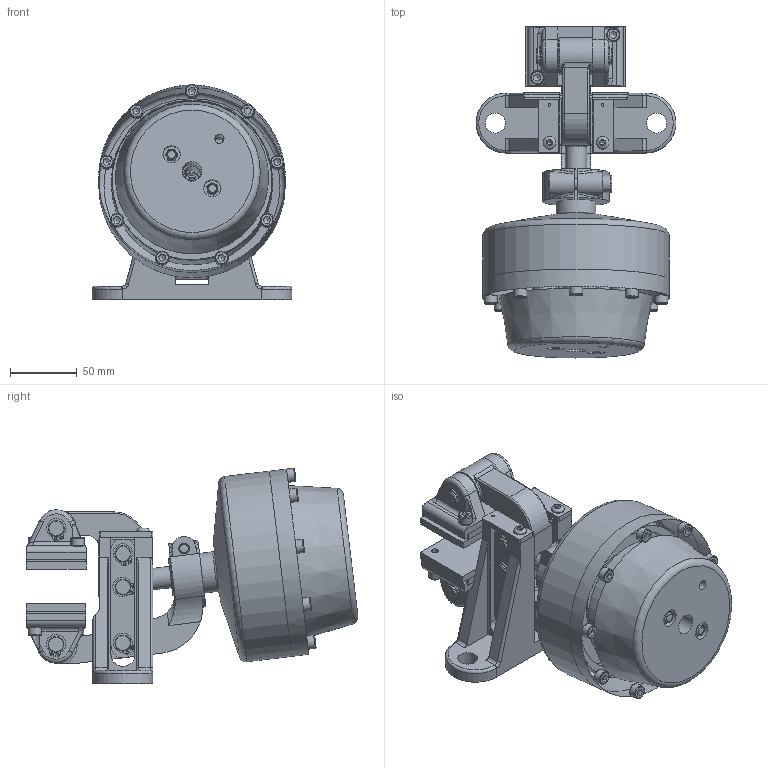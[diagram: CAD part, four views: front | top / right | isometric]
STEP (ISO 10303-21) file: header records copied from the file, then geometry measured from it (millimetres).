
FILE_DESCRIPTION(/* description */ ('','CAx-IF Rec.Pracs.---Representation and Presentation of Product Manufacturing Information (PMI)---4.0---2014-10-13'),/* implementation_level */ '2;1');
FILE_NAME(/* name */ 'X:\INVENTOR\DISEGNI\19_Pinze\STEP x Sito\PNEUM-NEGATIVE\19_36_013_04 PPD-N013_25,4.stp',/* time_stamp */ '2018-02-20T13:48:21+01:00',/* author */ ('stefano'),/* organization */ (''),/* preprocessor_version */ 'ST-DEVELOPER v17',/* originating_system */ 'Autodesk Inventor 2018',/* authorisation */ '');
FILE_SCHEMA (('AP242_MANAGED_MODEL_BASED_3D_ENGINEERING_MIM_LF { 1 0 10303 442 1 1 4 }'));
Length unit declared in the file: millimetre
Products named in the file (1): 19_36_013_04 PPD-N013_25,4_Substitute_2
Bounding box: 150 x 249.09 x 161.72 mm (x, y, z)
Volume: 1419433.8 mm3; surface area: 277352.2 mm2
Topology: 4 solids, 4 shells, 922 faces, 2623 edges, 1754 vertices
Faces by surface type: plane 495, cylinder 284, torus 60, cone 58, bspline 24, sphere 1
Full cylindrical faces by diameter (mm): 1.7 x20, 2 x2, 3 x2, 4.134 x2, 4.917 x9, 6 x6, 6.917 x1, 8 x3, 8.5 x1, 9.5 x4, 10 x17, 10.5 x1, 11.5 x10, 12 x23, 12.5 x1, 13 x3, 13.5 x1, 14.95 x1, 15 x2, 16 x2, 19 x1, 19.5 x8, 22 x1, 22.6 x1, 24 x1, 25 x1, 26.5 x2, 28 x1, 30 x1, 35 x1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
Entity records: 35185 total; most frequent: CARTESIAN_POINT 9633, DIRECTION 5293, ORIENTED_EDGE 5196, EDGE_CURVE 2598, AXIS2_PLACEMENT_3D 2029, VERTEX_POINT 1754, LINE 1235, VECTOR 1235
